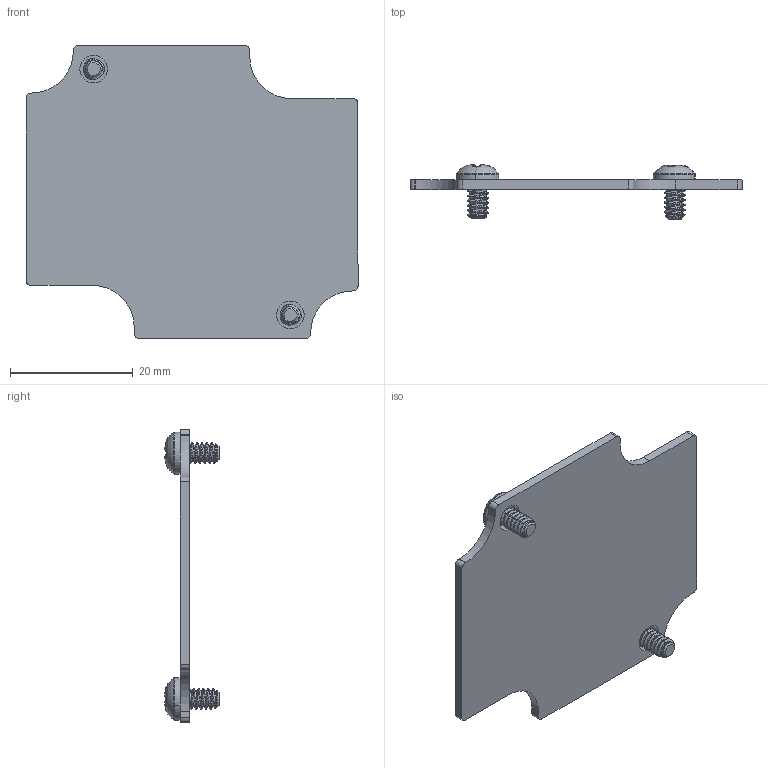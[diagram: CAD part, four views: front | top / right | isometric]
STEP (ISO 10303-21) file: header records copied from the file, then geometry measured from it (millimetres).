
FILE_DESCRIPTION (( 'STEP AP214' ), '1' );
FILE_NAME ('AN-01K.step', '2026-09-17T19:32:02', ( '' ), ( '' ), 'SwSTEP 2.0', 'SolidWorks 2026', '' );
FILE_SCHEMA (( 'AUTOMOTIVE_DESIGN' ));
Length unit declared in the file: inch
Products named in the file (3): SCREWS-050; AN-01-P_DEFAULT; AN-01K
Assembly tree (3 placements, depth 2):
  AN-01K
    AN-01-P_DEFAULT
    SCREWS-050  x2
Bounding box: 54 x 8.8 x 47.6 mm (x, y, z)
Volume: 3498.5 mm3; surface area: 5042.9 mm2
Topology: 3 solids, 3 shells, 700 faces, 1698 edges, 1002 vertices
Faces by surface type: bspline 368, cylinder 172, plane 64, sphere 48, cone 40, torus 8
Entity records: 17372 total; most frequent: CARTESIAN_POINT 10059, ORIENTED_EDGE 1778, DIRECTION 1041, EDGE_CURVE 889, VERTEX_POINT 529, B_SPLINE_CURVE_WITH_KNOTS 415, AXIS2_PLACEMENT_3D 380, EDGE_LOOP 370
